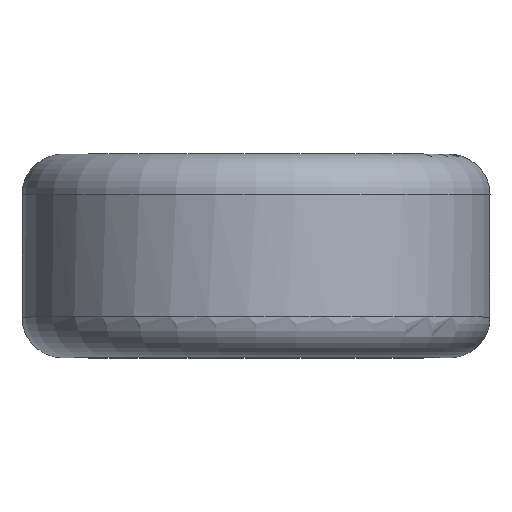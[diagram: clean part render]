
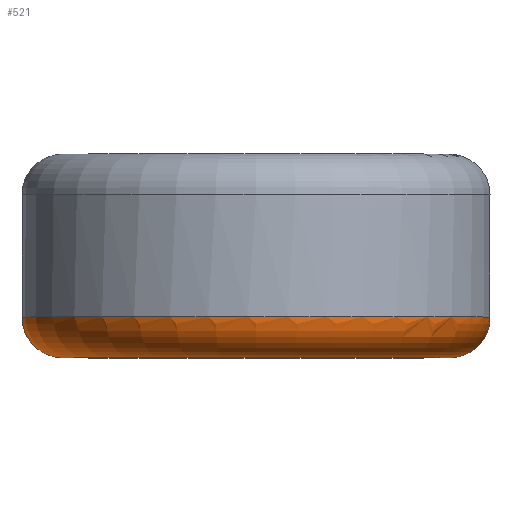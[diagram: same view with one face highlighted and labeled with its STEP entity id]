
A CAD part, top view. The second image highlights one B-rep face of the part: STEP entity #521.
In plain terms, the highlighted toroidal (fillet/blend) face has major radius 4.75 mm and minor radius 1 mm.
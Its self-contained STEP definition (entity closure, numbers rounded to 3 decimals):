
#82=FACE_OUTER_BOUND('',#112,.T.);
#112=EDGE_LOOP('',(#433,#434,#435,#436,#437,#438,#439,#440));
#151=CIRCLE('',#590,4.75);
#152=CIRCLE('',#591,1.);
#153=CIRCLE('',#592,5.75);
#154=CIRCLE('',#593,5.75);
#155=CIRCLE('',#594,5.75);
#156=CIRCLE('',#595,4.75);
#196=B_SPLINE_CURVE_WITH_KNOTS('',3,(#2743,#2744,#2745,#2746),
 .UNSPECIFIED.,.F.,.F.,(4,4),(-0.042,0.),.UNSPECIFIED.);
#231=VERTEX_POINT('',#2271);
#240=VERTEX_POINT('',#2590);
#243=VERTEX_POINT('',#3026);
#244=VERTEX_POINT('',#3027);
#245=VERTEX_POINT('',#3029);
#246=VERTEX_POINT('',#3032);
#309=EDGE_CURVE('',#231,#240,#196,.T.);
#313=EDGE_CURVE('',#243,#244,#151,.T.);
#314=EDGE_CURVE('',#244,#245,#152,.T.);
#315=EDGE_CURVE('',#245,#240,#153,.T.);
#316=EDGE_CURVE('',#231,#246,#154,.T.);
#317=EDGE_CURVE('',#246,#245,#155,.T.);
#318=EDGE_CURVE('',#244,#243,#156,.T.);
#433=ORIENTED_EDGE('',*,*,#313,.T.);
#434=ORIENTED_EDGE('',*,*,#314,.T.);
#435=ORIENTED_EDGE('',*,*,#315,.T.);
#436=ORIENTED_EDGE('',*,*,#309,.F.);
#437=ORIENTED_EDGE('',*,*,#316,.T.);
#438=ORIENTED_EDGE('',*,*,#317,.T.);
#439=ORIENTED_EDGE('',*,*,#314,.F.);
#440=ORIENTED_EDGE('',*,*,#318,.T.);
#503=TOROIDAL_SURFACE('',#589,4.75,1.);
#521=ADVANCED_FACE('',(#82),#503,.T.);
#589=AXIS2_PLACEMENT_3D('',#3025,#694,#695);
#590=AXIS2_PLACEMENT_3D('',#3028,#696,#697);
#591=AXIS2_PLACEMENT_3D('',#3030,#698,#699);
#592=AXIS2_PLACEMENT_3D('',#3031,#700,#701);
#593=AXIS2_PLACEMENT_3D('',#3033,#702,#703);
#594=AXIS2_PLACEMENT_3D('',#3034,#704,#705);
#595=AXIS2_PLACEMENT_3D('',#3035,#706,#707);
#694=DIRECTION('center_axis',(0.,-1.,0.));
#695=DIRECTION('ref_axis',(0.,0.,1.));
#696=DIRECTION('center_axis',(0.,1.,0.));
#697=DIRECTION('ref_axis',(-1.,0.,0.));
#698=DIRECTION('center_axis',(1.,0.,0.));
#699=DIRECTION('ref_axis',(0.,0.,-1.));
#700=DIRECTION('center_axis',(0.,-1.,0.));
#701=DIRECTION('ref_axis',(-1.,0.,0.));
#702=DIRECTION('center_axis',(0.,-1.,0.));
#703=DIRECTION('ref_axis',(-1.,0.,0.));
#704=DIRECTION('center_axis',(0.,-1.,0.));
#705=DIRECTION('ref_axis',(-1.,0.,0.));
#706=DIRECTION('center_axis',(0.,1.,0.));
#707=DIRECTION('ref_axis',(-1.,0.,0.));
#2271=CARTESIAN_POINT('',(2.505,-1.5,-5.176));
#2590=CARTESIAN_POINT('',(2.148,-1.5,-5.334));
#2743=CARTESIAN_POINT('Ctrl Pts',(2.505,-1.5,-5.176));
#2744=CARTESIAN_POINT('Ctrl Pts',(2.391,-1.53,-5.231));
#2745=CARTESIAN_POINT('Ctrl Pts',(2.266,-1.53,-5.286));
#2746=CARTESIAN_POINT('Ctrl Pts',(2.148,-1.5,-5.334));
#3025=CARTESIAN_POINT('Origin',(0.,-1.5,0.));
#3026=CARTESIAN_POINT('',(4.75,-2.5,0.));
#3027=CARTESIAN_POINT('',(0.,-2.5,-4.75));
#3028=CARTESIAN_POINT('Origin',(0.,-2.5,0.));
#3029=CARTESIAN_POINT('',(0.,-1.5,-5.75));
#3030=CARTESIAN_POINT('Origin',(0.,-1.5,-4.75));
#3031=CARTESIAN_POINT('Origin',(0.,-1.5,0.));
#3032=CARTESIAN_POINT('',(-5.75,-1.5,0.));
#3033=CARTESIAN_POINT('Origin',(0.,-1.5,0.));
#3034=CARTESIAN_POINT('Origin',(0.,-1.5,0.));
#3035=CARTESIAN_POINT('Origin',(0.,-2.5,0.));
